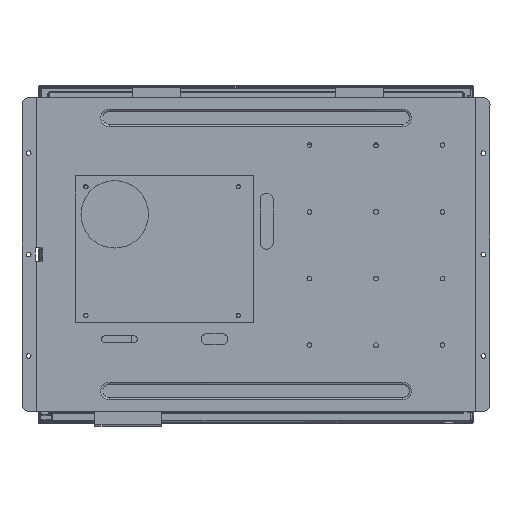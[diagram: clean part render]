
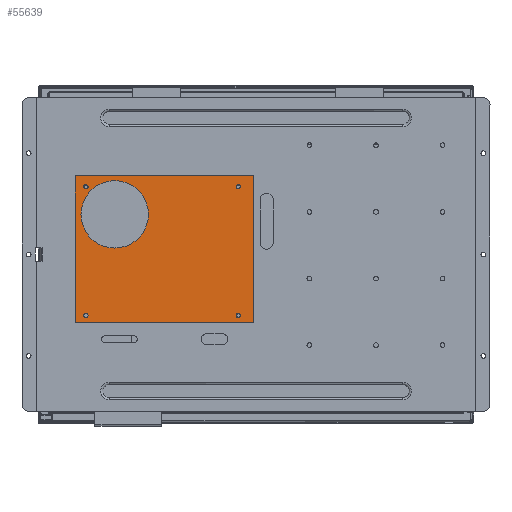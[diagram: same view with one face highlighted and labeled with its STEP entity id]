
A CAD part, top view. The second image highlights one B-rep face of the part: STEP entity #55639.
In plain terms, the highlighted planar face has unit normal (0, 0, 1).
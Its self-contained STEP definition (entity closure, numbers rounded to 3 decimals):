
#52720=CARTESIAN_POINT('',(508.689,959.275,0.));
#52721=DIRECTION('',(0.,0.,-1.));
#52722=DIRECTION('',(1.,0.,0.));
#52723=AXIS2_PLACEMENT_3D('',#52720,#52721,#52722);
#52725=CARTESIAN_POINT('',(508.689,959.275,0.));
#52726=DIRECTION('',(0.,0.,-1.));
#52727=DIRECTION('',(-1.,0.,0.));
#52728=AXIS2_PLACEMENT_3D('',#52725,#52726,#52727);
#52730=CARTESIAN_POINT('',(622.989,959.275,0.));
#52731=DIRECTION('',(0.,0.,-1.));
#52732=DIRECTION('',(1.,0.,0.));
#52733=AXIS2_PLACEMENT_3D('',#52730,#52731,#52732);
#52735=CARTESIAN_POINT('',(622.989,959.275,0.));
#52736=DIRECTION('',(0.,0.,-1.));
#52737=DIRECTION('',(-1.,0.,0.));
#52738=AXIS2_PLACEMENT_3D('',#52735,#52736,#52737);
#52740=CARTESIAN_POINT('',(622.989,862.765,0.));
#52741=DIRECTION('',(0.,0.,-1.));
#52742=DIRECTION('',(1.,0.,0.));
#52743=AXIS2_PLACEMENT_3D('',#52740,#52741,#52742);
#52745=CARTESIAN_POINT('',(622.989,862.765,0.));
#52746=DIRECTION('',(0.,0.,-1.));
#52747=DIRECTION('',(-1.,0.,0.));
#52748=AXIS2_PLACEMENT_3D('',#52745,#52746,#52747);
#52750=CARTESIAN_POINT('',(508.689,862.774,0.));
#52751=DIRECTION('',(0.,0.,-1.));
#52752=DIRECTION('',(1.,0.,0.));
#52753=AXIS2_PLACEMENT_3D('',#52750,#52751,#52752);
#52755=CARTESIAN_POINT('',(508.689,862.774,0.));
#52756=DIRECTION('',(0.,0.,-1.));
#52757=DIRECTION('',(-1.,0.,0.));
#52758=AXIS2_PLACEMENT_3D('',#52755,#52756,#52757);
#52760=DIRECTION('',(0.,-1.,0.));
#52761=VECTOR('',#52760,109.68);
#52762=CARTESIAN_POINT('',(500.578,967.374,0.));
#52763=LINE('',#52762,#52761);
#52764=DIRECTION('',(-1.,0.,0.));
#52765=VECTOR('',#52764,133.508);
#52766=CARTESIAN_POINT('',(634.086,967.374,0.));
#52767=LINE('',#52766,#52765);
#52768=DIRECTION('',(0.,1.,0.));
#52769=VECTOR('',#52768,109.68);
#52770=CARTESIAN_POINT('',(634.086,857.694,0.));
#52771=LINE('',#52770,#52769);
#52772=DIRECTION('',(1.,0.,0.));
#52773=VECTOR('',#52772,133.508);
#52774=CARTESIAN_POINT('',(500.578,857.694,0.));
#52775=LINE('',#52774,#52773);
#52776=CARTESIAN_POINT('',(530.304,938.584,0.));
#52777=DIRECTION('',(0.,0.,1.));
#52778=DIRECTION('',(1.,0.,0.));
#52779=AXIS2_PLACEMENT_3D('',#52776,#52777,#52778);
#52781=CARTESIAN_POINT('',(530.304,938.584,0.));
#52782=DIRECTION('',(0.,0.,1.));
#52783=DIRECTION('',(-1.,0.,0.));
#52784=AXIS2_PLACEMENT_3D('',#52781,#52782,#52783);
#53352=CARTESIAN_POINT('',(510.339,959.275,0.));
#53353=CARTESIAN_POINT('',(507.039,959.275,0.));
#53354=VERTEX_POINT('',#53352);
#53355=VERTEX_POINT('',#53353);
#53356=CARTESIAN_POINT('',(624.639,959.275,0.));
#53357=CARTESIAN_POINT('',(621.339,959.275,0.));
#53358=VERTEX_POINT('',#53356);
#53359=VERTEX_POINT('',#53357);
#53360=CARTESIAN_POINT('',(624.639,862.765,0.));
#53361=CARTESIAN_POINT('',(621.339,862.765,0.));
#53362=VERTEX_POINT('',#53360);
#53363=VERTEX_POINT('',#53361);
#53364=CARTESIAN_POINT('',(510.339,862.774,0.));
#53365=CARTESIAN_POINT('',(507.039,862.774,0.));
#53366=VERTEX_POINT('',#53364);
#53367=VERTEX_POINT('',#53365);
#53368=CARTESIAN_POINT('',(500.578,967.374,0.));
#53369=CARTESIAN_POINT('',(500.578,857.694,0.));
#53370=VERTEX_POINT('',#53368);
#53371=VERTEX_POINT('',#53369);
#53372=CARTESIAN_POINT('',(634.086,857.694,0.));
#53373=VERTEX_POINT('',#53372);
#53374=CARTESIAN_POINT('',(634.086,967.374,0.));
#53375=VERTEX_POINT('',#53374);
#53392=CARTESIAN_POINT('',(555.591,938.584,0.));
#53393=CARTESIAN_POINT('',(505.017,938.584,0.));
#53394=VERTEX_POINT('',#53392);
#53395=VERTEX_POINT('',#53393);
#55595=CARTESIAN_POINT('',(0.,0.,0.));
#55596=DIRECTION('',(0.,0.,1.));
#55597=DIRECTION('',(1.,0.,0.));
#55598=AXIS2_PLACEMENT_3D('',#55595,#55596,#55597);
#55599=PLANE('',#55598);
#55601=ORIENTED_EDGE('',*,*,#55600,.F.);
#55603=ORIENTED_EDGE('',*,*,#55602,.F.);
#55605=ORIENTED_EDGE('',*,*,#55604,.F.);
#55607=ORIENTED_EDGE('',*,*,#55606,.F.);
#55608=EDGE_LOOP('',(#55601,#55603,#55605,#55607));
#55609=FACE_OUTER_BOUND('',#55608,.F.);
#55611=ORIENTED_EDGE('',*,*,#55610,.F.);
#55613=ORIENTED_EDGE('',*,*,#55612,.F.);
#55614=EDGE_LOOP('',(#55611,#55613));
#55615=FACE_BOUND('',#55614,.F.);
#55617=ORIENTED_EDGE('',*,*,#55616,.F.);
#55619=ORIENTED_EDGE('',*,*,#55618,.F.);
#55620=EDGE_LOOP('',(#55617,#55619));
#55621=FACE_BOUND('',#55620,.F.);
#55623=ORIENTED_EDGE('',*,*,#55622,.F.);
#55625=ORIENTED_EDGE('',*,*,#55624,.F.);
#55626=EDGE_LOOP('',(#55623,#55625));
#55627=FACE_BOUND('',#55626,.F.);
#55628=ORIENTED_EDGE('',*,*,#55585,.F.);
#55630=ORIENTED_EDGE('',*,*,#55629,.F.);
#55631=EDGE_LOOP('',(#55628,#55630));
#55632=FACE_BOUND('',#55631,.F.);
#55634=ORIENTED_EDGE('',*,*,#55633,.T.);
#55636=ORIENTED_EDGE('',*,*,#55635,.T.);
#55637=EDGE_LOOP('',(#55634,#55636));
#55638=FACE_BOUND('',#55637,.F.);
#52724=CIRCLE('',#52723,1.65);
#52729=CIRCLE('',#52728,1.65);
#52734=CIRCLE('',#52733,1.65);
#52739=CIRCLE('',#52738,1.65);
#52744=CIRCLE('',#52743,1.65);
#52749=CIRCLE('',#52748,1.65);
#52754=CIRCLE('',#52753,1.65);
#52759=CIRCLE('',#52758,1.65);
#52780=CIRCLE('',#52779,25.287);
#52785=CIRCLE('',#52784,25.287);
#55585=EDGE_CURVE('',#53366,#53367,#52754,.T.);
#55600=EDGE_CURVE('',#53370,#53371,#52763,.T.);
#55602=EDGE_CURVE('',#53375,#53370,#52767,.T.);
#55604=EDGE_CURVE('',#53373,#53375,#52771,.T.);
#55606=EDGE_CURVE('',#53371,#53373,#52775,.T.);
#55610=EDGE_CURVE('',#53354,#53355,#52724,.T.);
#55612=EDGE_CURVE('',#53355,#53354,#52729,.T.);
#55616=EDGE_CURVE('',#53358,#53359,#52734,.T.);
#55618=EDGE_CURVE('',#53359,#53358,#52739,.T.);
#55622=EDGE_CURVE('',#53362,#53363,#52744,.T.);
#55624=EDGE_CURVE('',#53363,#53362,#52749,.T.);
#55629=EDGE_CURVE('',#53367,#53366,#52759,.T.);
#55633=EDGE_CURVE('',#53394,#53395,#52780,.T.);
#55635=EDGE_CURVE('',#53395,#53394,#52785,.T.);
#55639=ADVANCED_FACE('',(#55609,#55615,#55621,#55627,#55632,#55638),#55599,.T.);
